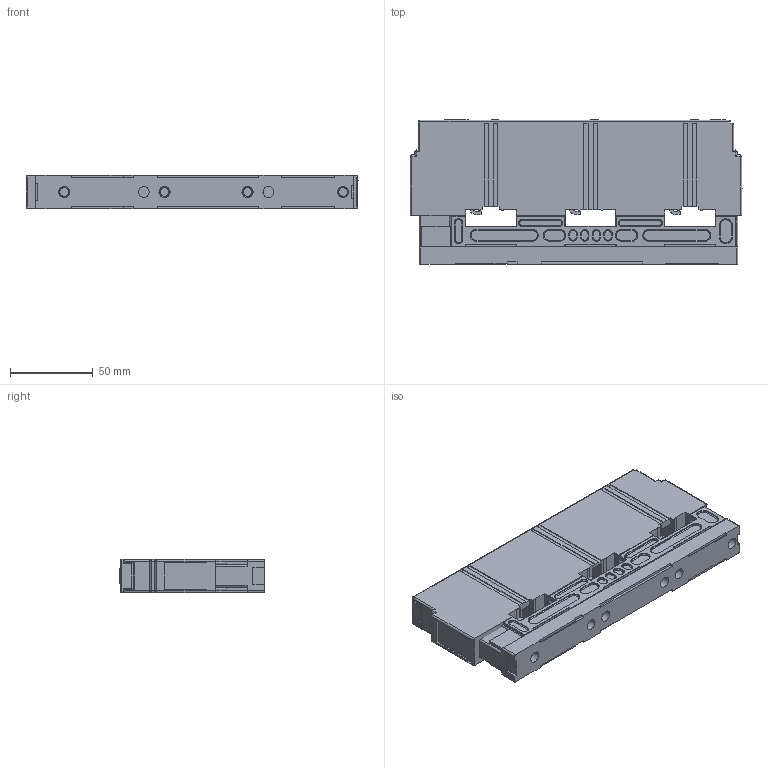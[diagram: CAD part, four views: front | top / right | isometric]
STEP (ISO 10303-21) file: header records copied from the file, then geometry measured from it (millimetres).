
FILE_DESCRIPTION (( 'STEP AP214' ), '1' );
FILE_NAME ('52484.STEP', '2021-08-11T00:10:26', ( '' ), ( '' ), 'SwSTEP 2.0', 'SolidWorks 2017', '' );
FILE_SCHEMA (( 'AUTOMOTIVE_DESIGN' ));
Length unit declared in the file: millimetre
Products named in the file (2): 52484
Bounding box: 200 x 87.3 x 20 mm (x, y, z)
Volume: 294617.9 mm3; surface area: 80142.9 mm2
Topology: 2 solids, 16 shells, 1667 faces, 4461 edges, 2889 vertices
Faces by surface type: plane 1160, cylinder 400, bspline 85, cone 22
Full cylindrical faces by diameter (mm): 4.4 x6, 5.2 x4, 5.5 x4, 6.5 x2, 6.8 x4, 7 x3, 8.5 x4, 9.3 x4, 11 x2
Entity records: 73383 total; most frequent: CARTESIAN_POINT 15882, ORIENTED_EDGE 8794, DIRECTION 7740, EDGE_CURVE 4397, LINE 3420, VECTOR 3420, VERTEX_POINT 2878, AXIS2_PLACEMENT_3D 2160
